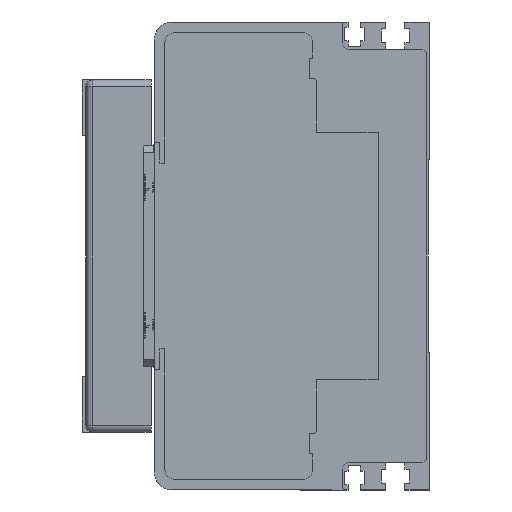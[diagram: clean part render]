
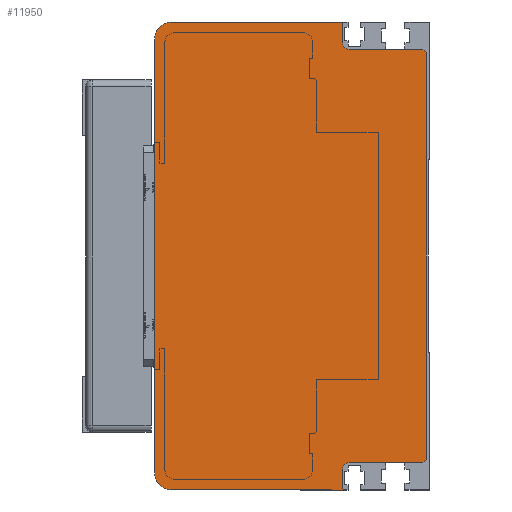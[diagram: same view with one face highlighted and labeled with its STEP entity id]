
A CAD part, left-side view. The second image highlights one B-rep face of the part: STEP entity #11950.
In plain terms, the highlighted planar face has unit normal (-1, 0, 0) as drawn and (0, 0, -1) by its records, which use the part's own axes.
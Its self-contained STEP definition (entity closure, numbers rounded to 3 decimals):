
#969=FACE_OUTER_BOUND('',#1696,.T.);
#1696=EDGE_LOOP('',(#8315,#8316,#8317,#8318,#8319,#8320,#8321,#8322,#8323,
#8324,#8325,#8326,#8327,#8328));
#2480=CIRCLE('',#12818,2.);
#2481=CIRCLE('',#12819,5.);
#2482=CIRCLE('',#12820,5.);
#2483=CIRCLE('',#12821,2.);
#2758=LINE('',#17023,#3901);
#2759=LINE('',#17025,#3902);
#2760=LINE('',#17027,#3903);
#2761=LINE('',#17029,#3904);
#2762=LINE('',#17033,#3905);
#2763=LINE('',#17035,#3906);
#2764=LINE('',#17039,#3907);
#2765=LINE('',#17043,#3908);
#2766=LINE('',#17045,#3909);
#2767=LINE('',#17048,#3910);
#3901=VECTOR('',#14037,1.414);
#3902=VECTOR('',#14038,118.);
#3903=VECTOR('',#14039,1.414);
#3904=VECTOR('',#14040,21.3);
#3905=VECTOR('',#14043,6.);
#3906=VECTOR('',#14044,49.7);
#3907=VECTOR('',#14047,126.);
#3908=VECTOR('',#14050,49.7);
#3909=VECTOR('',#14051,6.);
#3910=VECTOR('',#14054,21.3);
#5118=VERTEX_POINT('',#17021);
#5119=VERTEX_POINT('',#17022);
#5120=VERTEX_POINT('',#17024);
#5121=VERTEX_POINT('',#17026);
#5122=VERTEX_POINT('',#17028);
#5123=VERTEX_POINT('',#17030);
#5124=VERTEX_POINT('',#17032);
#5125=VERTEX_POINT('',#17034);
#5126=VERTEX_POINT('',#17036);
#5127=VERTEX_POINT('',#17038);
#5128=VERTEX_POINT('',#17040);
#5129=VERTEX_POINT('',#17042);
#5130=VERTEX_POINT('',#17044);
#5131=VERTEX_POINT('',#17046);
#6372=EDGE_CURVE('',#5118,#5119,#2758,.T.);
#6373=EDGE_CURVE('',#5118,#5120,#2759,.T.);
#6374=EDGE_CURVE('',#5121,#5120,#2760,.T.);
#6375=EDGE_CURVE('',#5121,#5122,#2761,.T.);
#6376=EDGE_CURVE('',#5123,#5122,#2480,.T.);
#6377=EDGE_CURVE('',#5123,#5124,#2762,.T.);
#6378=EDGE_CURVE('',#5124,#5125,#2763,.T.);
#6379=EDGE_CURVE('',#5125,#5126,#2481,.T.);
#6380=EDGE_CURVE('',#5126,#5127,#2764,.T.);
#6381=EDGE_CURVE('',#5127,#5128,#2482,.T.);
#6382=EDGE_CURVE('',#5128,#5129,#2765,.T.);
#6383=EDGE_CURVE('',#5129,#5130,#2766,.T.);
#6384=EDGE_CURVE('',#5131,#5130,#2483,.T.);
#6385=EDGE_CURVE('',#5131,#5119,#2767,.T.);
#8315=ORIENTED_EDGE('',*,*,#6372,.F.);
#8316=ORIENTED_EDGE('',*,*,#6373,.T.);
#8317=ORIENTED_EDGE('',*,*,#6374,.F.);
#8318=ORIENTED_EDGE('',*,*,#6375,.T.);
#8319=ORIENTED_EDGE('',*,*,#6376,.F.);
#8320=ORIENTED_EDGE('',*,*,#6377,.T.);
#8321=ORIENTED_EDGE('',*,*,#6378,.T.);
#8322=ORIENTED_EDGE('',*,*,#6379,.T.);
#8323=ORIENTED_EDGE('',*,*,#6380,.T.);
#8324=ORIENTED_EDGE('',*,*,#6381,.T.);
#8325=ORIENTED_EDGE('',*,*,#6382,.T.);
#8326=ORIENTED_EDGE('',*,*,#6383,.T.);
#8327=ORIENTED_EDGE('',*,*,#6384,.F.);
#8328=ORIENTED_EDGE('',*,*,#6385,.T.);
#11360=PLANE('',#12817);
#11950=ADVANCED_FACE('',(#969),#11360,.T.);
#12817=AXIS2_PLACEMENT_3D('',#17020,#14035,#14036);
#12818=AXIS2_PLACEMENT_3D('',#17031,#14041,#14042);
#12819=AXIS2_PLACEMENT_3D('',#17037,#14045,#14046);
#12820=AXIS2_PLACEMENT_3D('',#17041,#14048,#14049);
#12821=AXIS2_PLACEMENT_3D('',#17047,#14052,#14053);
#14035=DIRECTION('center_axis',(0.,0.,-1.));
#14036=DIRECTION('ref_axis',(0.,-1.,0.));
#14037=DIRECTION('',(0.707,0.707,0.));
#14038=DIRECTION('',(-1.,0.,0.));
#14039=DIRECTION('',(0.707,-0.707,0.));
#14040=DIRECTION('',(0.,1.,0.));
#14041=DIRECTION('center_axis',(0.,0.,-1.));
#14042=DIRECTION('ref_axis',(0.707,0.707,0.));
#14043=DIRECTION('',(-1.,0.,0.));
#14044=DIRECTION('',(0.,1.,0.));
#14045=DIRECTION('center_axis',(0.,0.,-1.));
#14046=DIRECTION('ref_axis',(-1.,0.,0.));
#14047=DIRECTION('',(1.,0.,0.));
#14048=DIRECTION('center_axis',(0.,0.,-1.));
#14049=DIRECTION('ref_axis',(0.,1.,0.));
#14050=DIRECTION('',(0.,-1.,0.));
#14051=DIRECTION('',(-1.,0.,0.));
#14052=DIRECTION('center_axis',(0.,0.,-1.));
#14053=DIRECTION('ref_axis',(-0.707,0.707,0.));
#14054=DIRECTION('',(0.,-1.,0.));
#17020=CARTESIAN_POINT('Origin',(-29.,-60.,-800.));
#17021=CARTESIAN_POINT('',(66.,-74.,-800.));
#17022=CARTESIAN_POINT('',(67.,-73.,-800.));
#17023=CARTESIAN_POINT('',(46.,-94.,-800.));
#17024=CARTESIAN_POINT('',(-52.,-74.,-800.));
#17025=CARTESIAN_POINT('',(-11.,-74.,-800.));
#17026=CARTESIAN_POINT('',(-53.,-73.,-800.));
#17027=CARTESIAN_POINT('',(-50.,-76.,-800.));
#17028=CARTESIAN_POINT('',(-53.,-51.7,-800.));
#17029=CARTESIAN_POINT('',(-53.,-67.,-800.));
#17030=CARTESIAN_POINT('',(-55.,-49.7,-800.));
#17031=CARTESIAN_POINT('Origin',(-55.,-51.7,-800.));
#17032=CARTESIAN_POINT('',(-61.,-49.7,-800.));
#17033=CARTESIAN_POINT('',(-41.,-49.7,-800.));
#17034=CARTESIAN_POINT('',(-61.,0.,-800.));
#17035=CARTESIAN_POINT('',(-61.,-51.25,-800.));
#17036=CARTESIAN_POINT('',(-56.,5.,-800.));
#17037=CARTESIAN_POINT('Origin',(-56.,0.,
-800.));
#17038=CARTESIAN_POINT('',(70.,5.,-800.));
#17039=CARTESIAN_POINT('',(-56.,5.,-800.));
#17040=CARTESIAN_POINT('',(75.,0.,-800.));
#17041=CARTESIAN_POINT('Origin',(70.,0.,
-800.));
#17042=CARTESIAN_POINT('',(75.,-49.7,-800.));
#17043=CARTESIAN_POINT('',(75.,0.,-800.));
#17044=CARTESIAN_POINT('',(69.,-49.7,-800.));
#17045=CARTESIAN_POINT('',(19.,-49.7,-800.));
#17046=CARTESIAN_POINT('',(67.,-51.7,-800.));
#17047=CARTESIAN_POINT('Origin',(69.,-51.7,-800.));
#17048=CARTESIAN_POINT('',(67.,-67.,-800.));
